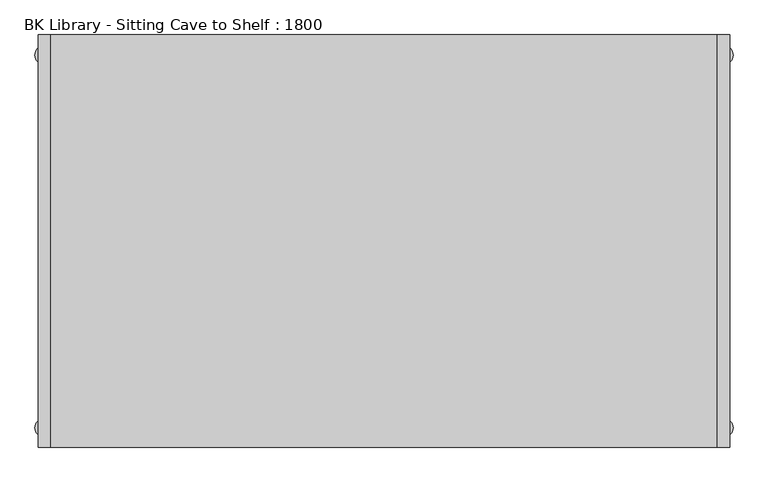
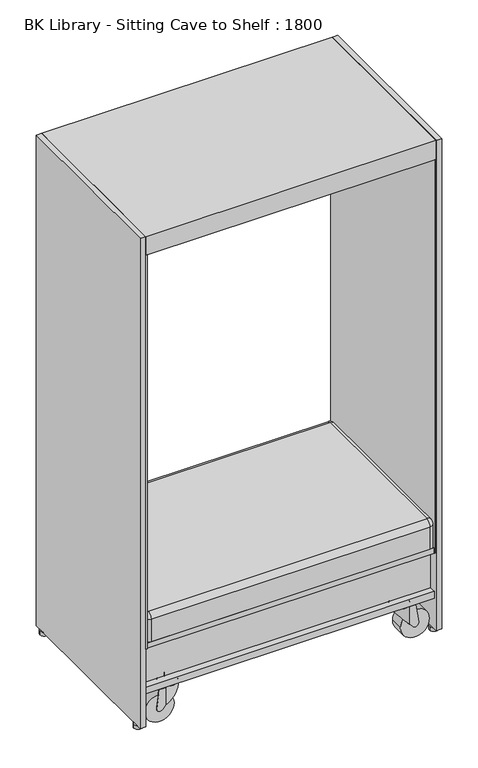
"""IFC4 building model written with IfcOpenShell, lengths in millimetres: furniture geometry, BK Library - Sitting Cave to Shelf : 1800."""

from ifc_helpers import new_model, si_unit, point, frame, frame_2d, origin, origin_with_axes, place, context, project, spatial, polyline, circle_curve, ellipse_curve, trimmed, segment, composite_curve, outline, extrude, source, transform, mapped, element, save
from ifc_brep_helpers import plane_surface, cylinder_surface, revolved_surface, advanced_brep


def bk_library_sitting_cave_to_shelf_1800_9197c93b(model_context):
    return source(origin(), model_context, "Body", "SolidModel", [
        extrude(outline(polyline([(-495.0, -310.0), (-500.0, -310.0), (-500.0, 310.0), (-495.0, 310.0), (-495.0, -310.0)])), frame((0.0, 0.0, 297.2000122), z_axis=(0.0, 0.0, 1.0), x_axis=(1.0, 0.0, 0.0)), (0.0, 0.0, 1.0), 1434.7999878),
        extrude(outline(polyline([(500.0, -310.0), (495.0, -310.0), (495.0, 310.0), (500.0, 310.0), (500.0, -310.0)])), frame((0.0, 0.0, 297.2000122), z_axis=(0.0, 0.0, 1.0), x_axis=(1.0, 0.0, 0.0)), (0.0, 0.0, 1.0), 1434.7999878),
        advanced_brep(
        [(441.5692168, 239.3557934, 116.3900038), (396.5692168, 239.3557934, 116.3900038), (396.5692168, 239.3557934, 81.8416749), (430.7173665, 239.3557934, 41.8401668), (451.0862367, 239.3557934, 51.0748876), (441.5692168, 290.2974347, 116.3900038), (451.0862367, 290.2974347, 51.0748876), (430.7173665, 290.2974347, 41.8401668), (396.5692168, 290.2974347, 81.8416749), (396.5692168, 290.2974347, 116.3900038), (430.7173665, 287.9389408, 41.8401668), (404.1507804, 287.9389408, 72.9605501), (404.1507804, 241.7142873, 72.9605501), (430.7173665, 241.7142873, 41.8401668), (451.0862367, 241.7142873, 51.0748876), (451.0862367, 287.9389408, 51.0748876), (441.9320335, 241.7142873, 113.8999998), (441.9320335, 287.9389408, 113.8999998), (404.1507804, 287.9389408, 113.8999998), (404.1507804, 241.7142873, 113.8999998)],
        [
            (0, 1),
            (1, 2),
            (2, 3),
            (3, 4, circle_curve(frame((439.5692324, 239.3557934, 49.3967529), z_axis=(0.0, -1.0, 0.0), x_axis=(1.0, 0.0, 0.0)), 11.6386221)),
            (4, 0),
            (5, 6),
            (6, 7, circle_curve(frame((439.5692324, 290.2974347, 49.3967529), z_axis=(0.0, 1.0, 0.0), x_axis=(1.0, 0.0, 0.0)), 11.6386221)),
            (7, 8),
            (8, 9),
            (9, 5),
            (0, 5),
            (9, 1),
            (8, 2),
            (7, 10),
            (10, 11),
            (11, 12),
            (12, 13),
            (13, 3),
            (13, 14, circle_curve(frame((439.5692324, 241.7142873, 49.3967529), z_axis=(0.0, -1.0, 0.0), x_axis=(1.0, 0.0, 0.0)), 11.6386221)),
            (14, 4),
            (6, 15),
            (15, 10, circle_curve(frame((439.5692324, 287.9389408, 49.3967529), z_axis=(0.0, 1.0, 0.0), x_axis=(1.0, 0.0, 0.0)), 11.6386221)),
            (14, 16),
            (16, 17),
            (17, 15),
            (18, 19),
            (19, 12),
            (11, 18),
            (19, 16),
            (18, 17),
        ],
        [
            plane_surface(frame((441.5692168, 239.3557934, 116.3900038), z_axis=(0.0, -1.0, 0.0), x_axis=(-1.0, 0.0, 0.0))),
            plane_surface(frame((441.5692168, 290.2974347, 116.3900038), z_axis=(0.0, 1.0, 0.0), x_axis=(1.0, 0.0, 0.0))),
            plane_surface(frame((441.5692168, 239.3557934, 116.3900038), z_axis=(0.0, 0.0, 1.0), x_axis=(0.0, 1.0, 0.0))),
            plane_surface(frame((396.5692168, 239.3557934, 116.3900038), z_axis=(-1.0, 0.0, 0.0), x_axis=(0.0, 1.0, 0.0))),
            plane_surface(frame((396.5692168, 239.3557934, 81.8416749), z_axis=(-0.76055961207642, 0.0, -0.649268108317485), x_axis=(0.0, 1.0, 0.0))),
            cylinder_surface(frame((439.5692324, 290.2974347, 49.3967529), z_axis=(0.0, -1.0, 0.0), x_axis=(1.0, 0.0, 0.0)), 11.6386221),
            plane_surface(frame((451.0862367, 239.3557934, 51.0748876), z_axis=(0.9895505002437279, 0.0, 0.14418671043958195), x_axis=(0.0, 1.0, 0.0))),
            plane_surface(frame((404.1507804, 287.9389408, 11.6999998), z_axis=(1.0, 0.0, 0.0), x_axis=(0.0, -1.0, 0.0))),
            plane_surface(frame((465.1635235, 241.7142873, 113.8999998), z_axis=(0.0, 1.0, 0.0), x_axis=(-1.0, 0.0, 0.0))),
            plane_surface(frame((465.1635235, 287.9389408, 113.8999998), z_axis=(0.0, 0.0, -1.0), x_axis=(-1.0, 0.0, 0.0))),
            plane_surface(frame((465.1635235, 287.9389408, 11.6999998), z_axis=(0.0, -1.0, 0.0), x_axis=(-1.0, 0.0, 0.0))),
        ],
        [
            (0, [[1, 2, 3, 4, 5]]),
            (1, [[6, 7, 8, 9, 10]]),
            (2, [[-1, 11, -10, 12]]),
            (3, [[-2, -12, -9, 13]]),
            (4, [[-3, -13, -8, 14, 15, 16, 17, 18]]),
            (5, [[-4, -18, 19, 20]]),
            (5, [[-7, 21, 22, -14]]),
            (6, [[-5, -20, 23, 24, 25, -21, -6, -11]]),
            (7, [[26, 27, -16, 28]]),
            (8, [[-27, 29, -23, -19, -17]]),
            (9, [[-26, 30, -24, -29]]),
            (10, [[-28, -15, -22, -25, -30]]),
        ],
    ),
        advanced_brep(
        [(367.1443326, 264.8730954, 121.6226045), (432.1265574, 264.8730954, 121.6226045), (432.1265574, 264.8730954, 44.4908375), (428.4545643, 279.8774531, 44.4908375), (369.8467405, 277.8463552, 113.1446696), (367.1443326, 264.8730954, 113.1446696), (369.8467405, 251.8998355, 113.1446696), (428.4545643, 249.8687376, 44.4908375), (428.4545643, 264.8730954, 44.4908375), (425.1265574, 264.8730954, 128.6226045), (374.1443326, 264.8730954, 128.6226045), (399.635445, 264.8730954, 128.6226045)],
        [
            (0, 1, circle_curve(frame((399.635445, 264.8730954, 121.6226045), z_axis=(0.0, 0.0, -1.0), x_axis=(-1.0, 0.0, 0.0)), 32.4911124)),
            (1, 2),
            (2, 3, circle_curve(frame((399.635445, 264.8730954, 44.4908375), z_axis=(0.0, 0.0, 1.0), x_axis=(-1.0, 0.0, 0.0)), 32.4911124)),
            (3, 4, ellipse_curve(frame((399.635445, 264.8730954, 78.2498623), z_axis=(0.76055961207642, 0.0, 0.649268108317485), x_axis=(0.649268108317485, 0.0, -0.76055961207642)), 50.0426742, 32.4911124)),
            (4, 5, circle_curve(frame((399.635445, 264.8730954, 113.1446696), z_axis=(0.0, 0.0, 1.0), x_axis=(-1.0, 0.0, 0.0)), 32.4911124)),
            (5, 0),
            (1, 0, circle_curve(frame((399.635445, 264.8730954, 121.6226045), z_axis=(0.0, 0.0, -1.0), x_axis=(-1.0, 0.0, 0.0)), 32.4911124)),
            (5, 6, circle_curve(frame((399.635445, 264.8730954, 113.1446696), z_axis=(0.0, 0.0, 1.0), x_axis=(-1.0, 0.0, 0.0)), 32.4911124)),
            (6, 7, ellipse_curve(frame((399.635445, 264.8730954, 78.2498623), z_axis=(0.76055961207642, 0.0, 0.649268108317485), x_axis=(0.649268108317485, 0.0, -0.76055961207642)), 50.0426742, 32.4911124)),
            (7, 2, circle_curve(frame((399.635445, 264.8730954, 44.4908375), z_axis=(0.0, 0.0, 1.0), x_axis=(-1.0, 0.0, 0.0)), 32.4911124)),
            (2, 8),
            (8, 3),
            (7, 8),
            (9, 10, circle_curve(frame((399.635445, 264.8730954, 128.6226045), z_axis=(0.0, 0.0, 1.0), x_axis=(-1.0, 0.0, 0.0)), 25.4911124)),
            (10, 11),
            (11, 9),
            (10, 9, circle_curve(frame((399.635445, 264.8730954, 128.6226045), z_axis=(0.0, 0.0, 1.0), x_axis=(-1.0, 0.0, 0.0)), 25.4911124)),
            (0, 10, circle_curve(frame((374.1443326, 264.8730954, 121.6226045), z_axis=(0.0, 1.0, 0.0), x_axis=(1.0, 0.0, 0.0)), 7.0)),
            (9, 1, circle_curve(frame((425.1265574, 264.8730954, 121.6226045), z_axis=(0.0, 1.0, 0.0), x_axis=(-1.0, 0.0, 0.0)), 7.0)),
            (6, 4),
        ],
        [
            cylinder_surface(frame((399.635445, 264.8730954, 133.8335618), z_axis=(0.0, 0.0, -1.0), x_axis=(-1.0, 0.0, 0.0)), 32.4911124),
            plane_surface(frame((399.635445, 264.8730954, 44.4908375), z_axis=(0.0, 0.0, -1.0), x_axis=(-1.0, 0.0, 0.0))),
            plane_surface(frame((399.635445, 264.8730954, 128.6226045), z_axis=(0.0, 0.0, 1.0), x_axis=(-1.0, 0.0, 0.0))),
            revolved_surface(trimmed(ellipse_curve(frame((374.1443326, 264.8730954, 121.6226045), z_axis=(0.0, -1.0, 0.0), x_axis=(1.0, 0.0, 0.0)), 7.0, 7.0), [point((374.1443326, 264.8730954, 128.6226045))], [point((367.1443326, 264.8730954, 121.6226045))], True, "CARTESIAN"), (399.635445, 264.8730954, 133.8335618), (0.0, 0.0, -1.0)),
            plane_surface(frame((430.7448827, 182.3708518, 41.807934), z_axis=(-0.76055961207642, 0.0, -0.649268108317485), x_axis=(0.0, 1.0, 0.0))),
            plane_surface(frame((369.8467405, 182.3708518, 113.1446696), z_axis=(0.0, 0.0, -1.0), x_axis=(0.0, 1.0, 0.0))),
        ],
        [
            (0, [[1, 2, 3, 4, 5, 6]]),
            (0, [[-2, 7, -6, 8, 9, 10]]),
            (1, [[-3, 11, 12]]),
            (1, [[-11, -10, 13]]),
            (2, [[14, 15, 16]]),
            (2, [[-15, 17, -16]]),
            (3, [[-1, 18, -14, 19]]),
            (3, [[-7, -19, -17, -18]]),
            (4, [[20, -4, -12, -13, -9]]),
            (5, [[-20, -8, -5]]),
        ],
    ),
        extrude(outline(composite_curve([segment(trimmed(circle_curve(frame_2d((49.3999998, -439.6510071)), 50.0), [point((49.3999998, -389.6510071))], [point((49.3999998, -489.6510071))], False, "CARTESIAN"), True, "CONTINUOUS"), segment(trimmed(circle_curve(frame_2d((49.3999998, -439.6510071)), 50.0), [point((49.3999998, -489.6510071))], [point((49.3999998, -389.6510071))], False, "CARTESIAN"), True, "CONTINUOUS")], self_intersect=False)), frame((0.0, 241.7142873, 0.0), z_axis=(0.0, 1.0, 0.0), x_axis=(0.0, 0.0, 1.0)), (0.0, 0.0, 1.0), 46.2857127),
        advanced_brep(
        [(441.5692168, -239.3557934, 116.3900038), (451.0862367, -239.3557934, 51.0748876), (430.7173665, -239.3557934, 41.8401668), (396.5692168, -239.3557934, 81.8416749), (396.5692168, -239.3557934, 116.3900038), (441.5692168, -290.2974347, 116.3900038), (396.5692168, -290.2974347, 116.3900038), (396.5692168, -290.2974347, 81.8416749), (430.7173665, -290.2974347, 41.8401668), (451.0862367, -290.2974347, 51.0748876), (430.7173665, -241.7142873, 41.8401668), (404.1507804, -241.7142873, 72.9605501), (404.1507804, -287.9389408, 72.9605501), (430.7173665, -287.9389408, 41.8401668), (451.0862367, -241.7142873, 51.0748876), (451.0862367, -287.9389408, 51.0748876), (441.9320335, -287.9389408, 113.8999998), (441.9320335, -241.7142873, 113.8999998), (404.1507804, -241.7142873, 113.8999998), (404.1507804, -287.9389408, 113.8999998)],
        [
            (0, 1),
            (1, 2, circle_curve(frame((439.5692324, -239.3557934, 49.3967529), z_axis=(0.0, 1.0, 0.0), x_axis=(1.0, 0.0, 0.0)), 11.6386221)),
            (2, 3),
            (3, 4),
            (4, 0),
            (5, 6),
            (6, 7),
            (7, 8),
            (8, 9, circle_curve(frame((439.5692324, -290.2974347, 49.3967529), z_axis=(0.0, -1.0, 0.0), x_axis=(1.0, 0.0, 0.0)), 11.6386221)),
            (9, 5),
            (4, 6),
            (5, 0),
            (3, 7),
            (2, 10),
            (10, 11),
            (11, 12),
            (12, 13),
            (13, 8),
            (1, 14),
            (14, 10, circle_curve(frame((439.5692324, -241.7142873, 49.3967529), z_axis=(0.0, 1.0, 0.0), x_axis=(1.0, 0.0, 0.0)), 11.6386221)),
            (13, 15, circle_curve(frame((439.5692324, -287.9389408, 49.3967529), z_axis=(0.0, -1.0, 0.0), x_axis=(1.0, 0.0, 0.0)), 11.6386221)),
            (15, 9),
            (15, 16),
            (16, 17),
            (17, 14),
            (18, 19),
            (19, 12),
            (11, 18),
            (17, 18),
            (16, 19),
        ],
        [
            plane_surface(frame((451.0874735, -239.3557934, 51.0663993), z_axis=(0.0, 1.0, 0.0), x_axis=(0.14418671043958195, 0.0, -0.9895505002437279))),
            plane_surface(frame((451.0874735, -290.2974347, 51.0663993), z_axis=(0.0, -1.0, 0.0), x_axis=(-0.14418671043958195, 0.0, 0.9895505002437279))),
            plane_surface(frame((396.5692168, -239.3557934, 116.3900038), z_axis=(0.0, 0.0, 1.0), x_axis=(0.0, -1.0, 0.0))),
            plane_surface(frame((396.5692168, -239.3557934, 81.8416749), z_axis=(-1.0, 0.0, 0.0), x_axis=(0.0, -1.0, 0.0))),
            plane_surface(frame((430.7173665, -239.3557934, 41.8401668), z_axis=(-0.76055961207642, 0.0, -0.649268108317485), x_axis=(0.0, -1.0, 0.0))),
            cylinder_surface(frame((439.5692324, -290.2974347, 49.3967529), z_axis=(0.0, 1.0, 0.0), x_axis=(1.0, 0.0, 0.0)), 11.6386221),
            plane_surface(frame((441.5692168, -239.3557934, 116.3900038), z_axis=(0.9895505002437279, 0.0, 0.14418671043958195), x_axis=(0.0, -1.0, 0.0))),
            plane_surface(frame((404.1507804, -241.7142873, 116.3900038), z_axis=(1.0, 0.0, 0.0), x_axis=(0.0, 0.0, -1.0))),
            plane_surface(frame((465.1635235, -241.7142873, 11.6999998), z_axis=(0.0, -1.0, 0.0), x_axis=(-1.0, 0.0, 0.0))),
            plane_surface(frame((465.1635235, -241.7142873, 113.8999998), z_axis=(0.0, 0.0, -1.0), x_axis=(-1.0, 0.0, 0.0))),
            plane_surface(frame((465.1635235, -287.9389408, 113.8999998), z_axis=(0.0, 1.0, 0.0), x_axis=(-1.0, 0.0, 0.0))),
        ],
        [
            (0, [[1, 2, 3, 4, 5]]),
            (1, [[6, 7, 8, 9, 10]]),
            (2, [[-5, 11, -6, 12]]),
            (3, [[-4, 13, -7, -11]]),
            (4, [[-3, 14, 15, 16, 17, 18, -8, -13]]),
            (5, [[-2, 19, 20, -14]]),
            (5, [[-9, -18, 21, 22]]),
            (6, [[-1, -12, -10, -22, 23, 24, 25, -19]]),
            (7, [[26, 27, -16, 28]]),
            (8, [[-28, -15, -20, -25, 29]]),
            (9, [[-26, -29, -24, 30]]),
            (10, [[-27, -30, -23, -21, -17]]),
        ],
    ),
        advanced_brep(
        [(432.1265574, -264.8730954, 121.6226045), (367.1443326, -264.8730954, 121.6226045), (367.1443326, -264.8730954, 113.1446696), (369.8467405, -277.8463552, 113.1446696), (428.4545643, -279.8774531, 44.4908375), (432.1265574, -264.8730954, 44.4908375), (428.4545643, -249.8687376, 44.4908375), (369.8467405, -251.8998355, 113.1446696), (428.4545643, -264.8730954, 44.4908375), (399.635445, -264.8730954, 128.6226045), (374.1443326, -264.8730954, 128.6226045), (425.1265574, -264.8730954, 128.6226045)],
        [
            (0, 1, circle_curve(frame((399.635445, -264.8730954, 121.6226045), z_axis=(0.0, 0.0, -1.0), x_axis=(-1.0, 0.0, 0.0)), 32.4911124)),
            (1, 2),
            (2, 3, circle_curve(frame((399.635445, -264.8730954, 113.1446696), z_axis=(0.0, 0.0, 1.0), x_axis=(-1.0, 0.0, 0.0)), 32.4911124)),
            (3, 4, ellipse_curve(frame((399.635445, -264.8730954, 78.2498623), z_axis=(0.76055961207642, 0.0, 0.649268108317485), x_axis=(-0.649268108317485, 0.0, 0.76055961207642)), 50.0426742, 32.4911124)),
            (4, 5, circle_curve(frame((399.635445, -264.8730954, 44.4908375), z_axis=(0.0, 0.0, 1.0), x_axis=(-1.0, 0.0, 0.0)), 32.4911124)),
            (5, 0),
            (5, 6, circle_curve(frame((399.635445, -264.8730954, 44.4908375), z_axis=(0.0, 0.0, 1.0), x_axis=(-1.0, 0.0, 0.0)), 32.4911124)),
            (6, 7, ellipse_curve(frame((399.635445, -264.8730954, 78.2498623), z_axis=(0.76055961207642, 0.0, 0.649268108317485), x_axis=(-0.649268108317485, 0.0, 0.76055961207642)), 50.0426742, 32.4911124)),
            (7, 2, circle_curve(frame((399.635445, -264.8730954, 113.1446696), z_axis=(0.0, 0.0, 1.0), x_axis=(-1.0, 0.0, 0.0)), 32.4911124)),
            (1, 0, circle_curve(frame((399.635445, -264.8730954, 121.6226045), z_axis=(0.0, 0.0, -1.0), x_axis=(-1.0, 0.0, 0.0)), 32.4911124)),
            (4, 8),
            (8, 5),
            (8, 6),
            (9, 10),
            (10, 11, circle_curve(frame((399.635445, -264.8730954, 128.6226045), z_axis=(0.0, 0.0, 1.0), x_axis=(-1.0, 0.0, 0.0)), 25.4911124)),
            (11, 9),
            (11, 10, circle_curve(frame((399.635445, -264.8730954, 128.6226045), z_axis=(0.0, 0.0, 1.0), x_axis=(-1.0, 0.0, 0.0)), 25.4911124)),
            (0, 11, circle_curve(frame((425.1265574, -264.8730954, 121.6226045), z_axis=(0.0, -1.0, 0.0), x_axis=(-1.0, 0.0, 0.0)), 7.0)),
            (10, 1, circle_curve(frame((374.1443326, -264.8730954, 121.6226045), z_axis=(0.0, -1.0, 0.0), x_axis=(1.0, 0.0, 0.0)), 7.0)),
            (3, 7),
        ],
        [
            cylinder_surface(frame((399.635445, -264.8730954, 133.8335618), z_axis=(0.0, 0.0, 1.0), x_axis=(-1.0, 0.0, 0.0)), 32.4911124),
            plane_surface(frame((399.635445, -264.8730954, 44.4908375), z_axis=(0.0, 0.0, -1.0), x_axis=(-1.0, 0.0, 0.0))),
            plane_surface(frame((399.635445, -264.8730954, 128.6226045), z_axis=(0.0, 0.0, 1.0), x_axis=(-1.0, 0.0, 0.0))),
            revolved_surface(trimmed(ellipse_curve(frame((374.1443326, -264.8730954, 121.6226045), z_axis=(0.0, 1.0, 0.0), x_axis=(1.0, 0.0, 0.0)), 7.0, 7.0), [point((367.1443326, -264.8730954, 121.6226045))], [point((374.1443326, -264.8730954, 128.6226045))], True, "CARTESIAN"), (399.635445, -264.8730954, 133.8335618), (0.0, 0.0, 1.0)),
            plane_surface(frame((369.8467405, -182.3708518, 113.1446696), z_axis=(-0.76055961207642, 0.0, -0.649268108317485), x_axis=(0.0, -1.0, 0.0))),
            plane_surface(frame((358.5196085, -182.3708518, 113.1446696), z_axis=(0.0, 0.0, -1.0), x_axis=(0.0, -1.0, 0.0))),
        ],
        [
            (0, [[1, 2, 3, 4, 5, 6]]),
            (0, [[-6, 7, 8, 9, -2, 10]]),
            (1, [[-5, 11, 12]]),
            (1, [[-7, -12, 13]]),
            (2, [[14, 15, 16]]),
            (2, [[-14, -16, 17]]),
            (3, [[-1, 18, -15, 19]]),
            (3, [[-10, -19, -17, -18]]),
            (4, [[20, -8, -13, -11, -4]]),
            (5, [[-20, -3, -9]]),
        ],
    ),
        extrude(outline(composite_curve([segment(trimmed(circle_curve(frame_2d((399.635445, 264.8421776)), 10.0), [point((389.635445, 264.8421776))], [point((409.635445, 264.8421776))], False, "CARTESIAN"), True, "CONTINUOUS"), segment(trimmed(circle_curve(frame_2d((399.635445, 264.8421776)), 10.0), [point((409.635445, 264.8421776))], [point((389.635445, 264.8421776))], False, "CARTESIAN"), True, "CONTINUOUS")], self_intersect=False)), frame((0.0, 0.0, 126.1999998), z_axis=(0.0, 0.0, 1.0), x_axis=(1.0, 0.0, 0.0)), (0.0, 0.0, 1.0), 24.8998986),
        extrude(outline(composite_curve([segment(trimmed(circle_curve(frame_2d((49.3999998, 439.6510071)), 50.0), [point((49.3999998, 389.6510071))], [point((49.3999998, 489.6510071))], False, "CARTESIAN"), True, "CONTINUOUS"), segment(trimmed(circle_curve(frame_2d((49.3999998, 439.6510071)), 50.0), [point((49.3999998, 489.6510071))], [point((49.3999998, 389.6510071))], False, "CARTESIAN"), True, "CONTINUOUS")], self_intersect=False)), frame((0.0, 241.7142873, 0.0), z_axis=(0.0, 1.0, 0.0), x_axis=(0.0, 0.0, 1.0)), (0.0, 0.0, 1.0), 46.2857127),
        extrude(outline(composite_curve([segment(trimmed(circle_curve(frame_2d((399.635445, -264.8421776)), 10.0), [point((389.635445, -264.8421776))], [point((409.635445, -264.8421776))], False, "CARTESIAN"), True, "CONTINUOUS"), segment(trimmed(circle_curve(frame_2d((399.635445, -264.8421776)), 10.0), [point((409.635445, -264.8421776))], [point((389.635445, -264.8421776))], False, "CARTESIAN"), True, "CONTINUOUS")], self_intersect=False)), frame((0.0, 0.0, 126.1999998), z_axis=(0.0, 0.0, 1.0), x_axis=(1.0, 0.0, 0.0)), (0.0, 0.0, 1.0), 24.8998986),
        extrude(outline(composite_curve([segment(trimmed(circle_curve(frame_2d((49.3999998, 439.6510071)), 50.0), [point((49.3999998, 389.6510071))], [point((49.3999998, 489.6510071))], False, "CARTESIAN"), True, "CONTINUOUS"), segment(trimmed(circle_curve(frame_2d((49.3999998, 439.6510071)), 50.0), [point((49.3999998, 489.6510071))], [point((49.3999998, 389.6510071))], False, "CARTESIAN"), True, "CONTINUOUS")], self_intersect=False)), frame((0.0, -288.0, 0.0), z_axis=(0.0, 1.0, 0.0), x_axis=(0.0, 0.0, 1.0)), (0.0, 0.0, 1.0), 46.2857127),
        advanced_brep(
        [(-441.5692168, 239.3557934, 116.3900038), (-451.0862367, 239.3557934, 51.0748876), (-430.7173665, 239.3557934, 41.8401668), (-396.5692168, 239.3557934, 81.8416749), (-396.5692168, 239.3557934, 116.3900038), (-441.5692168, 290.2974347, 116.3900038), (-396.5692168, 290.2974347, 116.3900038), (-396.5692168, 290.2974347, 81.8416749), (-430.7173665, 290.2974347, 41.8401668), (-451.0862367, 290.2974347, 51.0748876), (-430.7173665, 241.7142873, 41.8401668), (-404.1507804, 241.7142873, 72.9605501), (-404.1507804, 287.9389408, 72.9605501), (-430.7173665, 287.9389408, 41.8401668), (-451.0862367, 241.7142873, 51.0748876), (-451.0862367, 287.9389408, 51.0748876), (-441.9320335, 287.9389408, 113.8999998), (-441.9320335, 241.7142873, 113.8999998), (-404.1507804, 241.7142873, 113.8999998), (-404.1507804, 287.9389408, 113.8999998)],
        [
            (0, 1),
            (1, 2, circle_curve(frame((-439.5692324, 239.3557934, 49.3967529), z_axis=(0.0, -1.0, 0.0), x_axis=(-1.0, 0.0, 0.0)), 11.6386221)),
            (2, 3),
            (3, 4),
            (4, 0),
            (5, 6),
            (6, 7),
            (7, 8),
            (8, 9, circle_curve(frame((-439.5692324, 290.2974347, 49.3967529), z_axis=(0.0, 1.0, 0.0), x_axis=(-1.0, 0.0, 0.0)), 11.6386221)),
            (9, 5),
            (4, 6),
            (5, 0),
            (3, 7),
            (2, 10),
            (10, 11),
            (11, 12),
            (12, 13),
            (13, 8),
            (1, 14),
            (14, 10, circle_curve(frame((-439.5692324, 241.7142873, 49.3967529), z_axis=(0.0, -1.0, 0.0), x_axis=(-1.0, 0.0, 0.0)), 11.6386221)),
            (13, 15, circle_curve(frame((-439.5692324, 287.9389408, 49.3967529), z_axis=(0.0, 1.0, 0.0), x_axis=(-1.0, 0.0, 0.0)), 11.6386221)),
            (15, 9),
            (15, 16),
            (16, 17),
            (17, 14),
            (18, 19),
            (19, 12),
            (11, 18),
            (17, 18),
            (16, 19),
        ],
        [
            plane_surface(frame((-451.0874735, 239.3557934, 51.0663993), z_axis=(0.0, -1.0, 0.0), x_axis=(-0.14418671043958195, 0.0, -0.9895505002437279))),
            plane_surface(frame((-451.0874735, 290.2974347, 51.0663993), z_axis=(0.0, 1.0, 0.0), x_axis=(0.14418671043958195, 0.0, 0.9895505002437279))),
            plane_surface(frame((-396.5692168, 239.3557934, 116.3900038), z_axis=(0.0, 0.0, 1.0), x_axis=(0.0, 1.0, 0.0))),
            plane_surface(frame((-396.5692168, 239.3557934, 81.8416749), z_axis=(1.0, 0.0, 0.0), x_axis=(0.0, 1.0, 0.0))),
            plane_surface(frame((-430.7173665, 239.3557934, 41.8401668), z_axis=(0.76055961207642, 0.0, -0.649268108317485), x_axis=(0.0, 1.0, 0.0))),
            cylinder_surface(frame((-439.5692324, 290.2974347, 49.3967529), z_axis=(0.0, -1.0, 0.0), x_axis=(-1.0, 0.0, 0.0)), 11.6386221),
            plane_surface(frame((-441.5692168, 239.3557934, 116.3900038), z_axis=(-0.9895505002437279, 0.0, 0.14418671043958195), x_axis=(0.0, 1.0, 0.0))),
            plane_surface(frame((-404.1507804, 241.7142873, 116.3900038), z_axis=(-1.0, 0.0, 0.0), x_axis=(0.0, 0.0, -1.0))),
            plane_surface(frame((-465.1635235, 241.7142873, 11.6999998), z_axis=(0.0, 1.0, 0.0), x_axis=(1.0, 0.0, 0.0))),
            plane_surface(frame((-465.1635235, 241.7142873, 113.8999998), z_axis=(0.0, 0.0, -1.0), x_axis=(1.0, 0.0, 0.0))),
            plane_surface(frame((-465.1635235, 287.9389408, 113.8999998), z_axis=(0.0, -1.0, 0.0), x_axis=(1.0, 0.0, 0.0))),
        ],
        [
            (0, [[1, 2, 3, 4, 5]]),
            (1, [[6, 7, 8, 9, 10]]),
            (2, [[-5, 11, -6, 12]]),
            (3, [[-4, 13, -7, -11]]),
            (4, [[-3, 14, 15, 16, 17, 18, -8, -13]]),
            (5, [[-2, 19, 20, -14]]),
            (5, [[-9, -18, 21, 22]]),
            (6, [[-1, -12, -10, -22, 23, 24, 25, -19]]),
            (7, [[26, 27, -16, 28]]),
            (8, [[-28, -15, -20, -25, 29]]),
            (9, [[-26, -29, -24, 30]]),
            (10, [[-27, -30, -23, -21, -17]]),
        ],
    ),
        advanced_brep(
        [(-432.1265574, 264.8730954, 121.6226045), (-367.1443326, 264.8730954, 121.6226045), (-367.1443326, 264.8730954, 113.1446696), (-369.8467405, 277.8463552, 113.1446696), (-428.4545643, 279.8774531, 44.4908375), (-432.1265574, 264.8730954, 44.4908375), (-428.4545643, 249.8687376, 44.4908375), (-369.8467405, 251.8998355, 113.1446696), (-428.4545643, 264.8730954, 44.4908375), (-399.635445, 264.8730954, 128.6226045), (-374.1443326, 264.8730954, 128.6226045), (-425.1265574, 264.8730954, 128.6226045)],
        [
            (0, 1, circle_curve(frame((-399.635445, 264.8730954, 121.6226045), z_axis=(0.0, 0.0, -1.0), x_axis=(1.0, 0.0, 0.0)), 32.4911124)),
            (1, 2),
            (2, 3, circle_curve(frame((-399.635445, 264.8730954, 113.1446696), z_axis=(0.0, 0.0, 1.0), x_axis=(1.0, 0.0, 0.0)), 32.4911124)),
            (3, 4, ellipse_curve(frame((-399.635445, 264.8730954, 78.2498623), z_axis=(-0.76055961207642, 0.0, 0.649268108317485), x_axis=(0.649268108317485, 0.0, 0.76055961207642)), 50.0426742, 32.4911124)),
            (4, 5, circle_curve(frame((-399.635445, 264.8730954, 44.4908375), z_axis=(0.0, 0.0, 1.0), x_axis=(1.0, 0.0, 0.0)), 32.4911124)),
            (5, 0),
            (5, 6, circle_curve(frame((-399.635445, 264.8730954, 44.4908375), z_axis=(0.0, 0.0, 1.0), x_axis=(1.0, 0.0, 0.0)), 32.4911124)),
            (6, 7, ellipse_curve(frame((-399.635445, 264.8730954, 78.2498623), z_axis=(-0.76055961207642, 0.0, 0.649268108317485), x_axis=(0.649268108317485, 0.0, 0.76055961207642)), 50.0426742, 32.4911124)),
            (7, 2, circle_curve(frame((-399.635445, 264.8730954, 113.1446696), z_axis=(0.0, 0.0, 1.0), x_axis=(1.0, 0.0, 0.0)), 32.4911124)),
            (1, 0, circle_curve(frame((-399.635445, 264.8730954, 121.6226045), z_axis=(0.0, 0.0, -1.0), x_axis=(1.0, 0.0, 0.0)), 32.4911124)),
            (4, 8),
            (8, 5),
            (8, 6),
            (9, 10),
            (10, 11, circle_curve(frame((-399.635445, 264.8730954, 128.6226045), z_axis=(0.0, 0.0, 1.0), x_axis=(1.0, 0.0, 0.0)), 25.4911124)),
            (11, 9),
            (11, 10, circle_curve(frame((-399.635445, 264.8730954, 128.6226045), z_axis=(0.0, 0.0, 1.0), x_axis=(1.0, 0.0, 0.0)), 25.4911124)),
            (0, 11, circle_curve(frame((-425.1265574, 264.8730954, 121.6226045), z_axis=(0.0, 1.0, 0.0), x_axis=(1.0, 0.0, 0.0)), 7.0)),
            (10, 1, circle_curve(frame((-374.1443326, 264.8730954, 121.6226045), z_axis=(0.0, 1.0, 0.0), x_axis=(-1.0, 0.0, 0.0)), 7.0)),
            (3, 7),
        ],
        [
            cylinder_surface(frame((-399.635445, 264.8730954, 133.8335618), z_axis=(0.0, 0.0, 1.0), x_axis=(1.0, 0.0, 0.0)), 32.4911124),
            plane_surface(frame((-399.635445, 264.8730954, 44.4908375), z_axis=(0.0, 0.0, -1.0), x_axis=(1.0, 0.0, 0.0))),
            plane_surface(frame((-399.635445, 264.8730954, 128.6226045), z_axis=(0.0, 0.0, 1.0), x_axis=(1.0, 0.0, 0.0))),
            revolved_surface(trimmed(ellipse_curve(frame((-374.1443326, 264.8730954, 121.6226045), z_axis=(0.0, -1.0, 0.0), x_axis=(-1.0, 0.0, 0.0)), 7.0, 7.0), [point((-367.1443326, 264.8730954, 121.6226045))], [point((-374.1443326, 264.8730954, 128.6226045))], True, "CARTESIAN"), (-399.635445, 264.8730954, 133.8335618), (0.0, 0.0, 1.0)),
            plane_surface(frame((-369.8467405, 182.3708518, 113.1446696), z_axis=(0.76055961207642, 0.0, -0.649268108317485), x_axis=(0.0, 1.0, 0.0))),
            plane_surface(frame((-358.5196085, 182.3708518, 113.1446696), z_axis=(0.0, 0.0, -1.0), x_axis=(0.0, 1.0, 0.0))),
        ],
        [
            (0, [[1, 2, 3, 4, 5, 6]]),
            (0, [[-6, 7, 8, 9, -2, 10]]),
            (1, [[-5, 11, 12]]),
            (1, [[-7, -12, 13]]),
            (2, [[14, 15, 16]]),
            (2, [[-14, -16, 17]]),
            (3, [[-1, 18, -15, 19]]),
            (3, [[-10, -19, -17, -18]]),
            (4, [[20, -8, -13, -11, -4]]),
            (5, [[-20, -3, -9]]),
        ],
    ),
        extrude(outline(composite_curve([segment(trimmed(circle_curve(frame_2d((49.3999998, -439.6510071)), 50.0), [point((49.3999998, -389.6510071))], [point((49.3999998, -489.6510071))], False, "CARTESIAN"), True, "CONTINUOUS"), segment(trimmed(circle_curve(frame_2d((49.3999998, -439.6510071)), 50.0), [point((49.3999998, -489.6510071))], [point((49.3999998, -389.6510071))], False, "CARTESIAN"), True, "CONTINUOUS")], self_intersect=False)), frame((0.0, -288.0, 0.0), z_axis=(0.0, 1.0, 0.0), x_axis=(0.0, 0.0, 1.0)), (0.0, 0.0, 1.0), 46.2857127),
        extrude(outline(composite_curve([segment(trimmed(circle_curve(frame_2d((-399.635445, 264.8421776)), 10.0), [point((-389.635445, 264.8421776))], [point((-409.635445, 264.8421776))], False, "CARTESIAN"), True, "CONTINUOUS"), segment(trimmed(circle_curve(frame_2d((-399.635445, 264.8421776)), 10.0), [point((-409.635445, 264.8421776))], [point((-389.635445, 264.8421776))], False, "CARTESIAN"), True, "CONTINUOUS")], self_intersect=False)), frame((0.0, 0.0, 126.1999998), z_axis=(0.0, 0.0, 1.0), x_axis=(1.0, 0.0, 0.0)), (0.0, 0.0, 1.0), 24.8998986),
        advanced_brep(
        [(-441.5692168, -239.3557934, 116.3900038), (-396.5692168, -239.3557934, 116.3900038), (-396.5692168, -239.3557934, 81.8416749), (-430.7173665, -239.3557934, 41.8401668), (-451.0862367, -239.3557934, 51.0748876), (-441.5692168, -290.2974347, 116.3900038), (-451.0862367, -290.2974347, 51.0748876), (-430.7173665, -290.2974347, 41.8401668), (-396.5692168, -290.2974347, 81.8416749), (-396.5692168, -290.2974347, 116.3900038), (-430.7173665, -287.9389408, 41.8401668), (-404.1507804, -287.9389408, 72.9605501), (-404.1507804, -241.7142873, 72.9605501), (-430.7173665, -241.7142873, 41.8401668), (-451.0862367, -241.7142873, 51.0748876), (-451.0862367, -287.9389408, 51.0748876), (-441.9320335, -241.7142873, 113.8999998), (-441.9320335, -287.9389408, 113.8999998), (-404.1507804, -287.9389408, 113.8999998), (-404.1507804, -241.7142873, 113.8999998)],
        [
            (0, 1),
            (1, 2),
            (2, 3),
            (3, 4, circle_curve(frame((-439.5692324, -239.3557934, 49.3967529), z_axis=(0.0, 1.0, 0.0), x_axis=(-1.0, 0.0, 0.0)), 11.6386221)),
            (4, 0),
            (5, 6),
            (6, 7, circle_curve(frame((-439.5692324, -290.2974347, 49.3967529), z_axis=(0.0, -1.0, 0.0), x_axis=(-1.0, 0.0, 0.0)), 11.6386221)),
            (7, 8),
            (8, 9),
            (9, 5),
            (0, 5),
            (9, 1),
            (8, 2),
            (7, 10),
            (10, 11),
            (11, 12),
            (12, 13),
            (13, 3),
            (13, 14, circle_curve(frame((-439.5692324, -241.7142873, 49.3967529), z_axis=(0.0, 1.0, 0.0), x_axis=(-1.0, 0.0, 0.0)), 11.6386221)),
            (14, 4),
            (6, 15),
            (15, 10, circle_curve(frame((-439.5692324, -287.9389408, 49.3967529), z_axis=(0.0, -1.0, 0.0), x_axis=(-1.0, 0.0, 0.0)), 11.6386221)),
            (14, 16),
            (16, 17),
            (17, 15),
            (18, 19),
            (19, 12),
            (11, 18),
            (19, 16),
            (18, 17),
        ],
        [
            plane_surface(frame((-441.5692168, -239.3557934, 116.3900038), z_axis=(0.0, 1.0, 0.0), x_axis=(1.0, 0.0, 0.0))),
            plane_surface(frame((-441.5692168, -290.2974347, 116.3900038), z_axis=(0.0, -1.0, 0.0), x_axis=(-1.0, 0.0, 0.0))),
            plane_surface(frame((-441.5692168, -239.3557934, 116.3900038), z_axis=(0.0, 0.0, 1.0), x_axis=(0.0, -1.0, 0.0))),
            plane_surface(frame((-396.5692168, -239.3557934, 116.3900038), z_axis=(1.0, 0.0, 0.0), x_axis=(0.0, -1.0, 0.0))),
            plane_surface(frame((-396.5692168, -239.3557934, 81.8416749), z_axis=(0.76055961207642, 0.0, -0.649268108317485), x_axis=(0.0, -1.0, 0.0))),
            cylinder_surface(frame((-439.5692324, -290.2974347, 49.3967529), z_axis=(0.0, 1.0, 0.0), x_axis=(-1.0, 0.0, 0.0)), 11.6386221),
            plane_surface(frame((-451.0862367, -239.3557934, 51.0748876), z_axis=(-0.9895505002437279, 0.0, 0.14418671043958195), x_axis=(0.0, -1.0, 0.0))),
            plane_surface(frame((-404.1507804, -287.9389408, 11.6999998), z_axis=(-1.0, 0.0, 0.0), x_axis=(0.0, 1.0, 0.0))),
            plane_surface(frame((-465.1635235, -241.7142873, 113.8999998), z_axis=(0.0, -1.0, 0.0), x_axis=(1.0, 0.0, 0.0))),
            plane_surface(frame((-465.1635235, -287.9389408, 113.8999998), z_axis=(0.0, 0.0, -1.0), x_axis=(1.0, 0.0, 0.0))),
            plane_surface(frame((-465.1635235, -287.9389408, 11.6999998), z_axis=(0.0, 1.0, 0.0), x_axis=(1.0, 0.0, 0.0))),
        ],
        [
            (0, [[1, 2, 3, 4, 5]]),
            (1, [[6, 7, 8, 9, 10]]),
            (2, [[-1, 11, -10, 12]]),
            (3, [[-2, -12, -9, 13]]),
            (4, [[-3, -13, -8, 14, 15, 16, 17, 18]]),
            (5, [[-4, -18, 19, 20]]),
            (5, [[-7, 21, 22, -14]]),
            (6, [[-5, -20, 23, 24, 25, -21, -6, -11]]),
            (7, [[26, 27, -16, 28]]),
            (8, [[-27, 29, -23, -19, -17]]),
            (9, [[-26, 30, -24, -29]]),
            (10, [[-28, -15, -22, -25, -30]]),
        ],
    ),
        advanced_brep(
        [(-367.1443326, -264.8730954, 121.6226045), (-432.1265574, -264.8730954, 121.6226045), (-432.1265574, -264.8730954, 44.4908375), (-428.4545643, -279.8774531, 44.4908375), (-369.8467405, -277.8463552, 113.1446696), (-367.1443326, -264.8730954, 113.1446696), (-369.8467405, -251.8998355, 113.1446696), (-428.4545643, -249.8687376, 44.4908375), (-428.4545643, -264.8730954, 44.4908375), (-425.1265574, -264.8730954, 128.6226045), (-374.1443326, -264.8730954, 128.6226045), (-399.635445, -264.8730954, 128.6226045)],
        [
            (0, 1, circle_curve(frame((-399.635445, -264.8730954, 121.6226045), z_axis=(0.0, 0.0, -1.0), x_axis=(1.0, 0.0, 0.0)), 32.4911124)),
            (1, 2),
            (2, 3, circle_curve(frame((-399.635445, -264.8730954, 44.4908375), z_axis=(0.0, 0.0, 1.0), x_axis=(1.0, 0.0, 0.0)), 32.4911124)),
            (3, 4, ellipse_curve(frame((-399.635445, -264.8730954, 78.2498623), z_axis=(-0.76055961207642, 0.0, 0.649268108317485), x_axis=(-0.649268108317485, 0.0, -0.76055961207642)), 50.0426742, 32.4911124)),
            (4, 5, circle_curve(frame((-399.635445, -264.8730954, 113.1446696), z_axis=(0.0, 0.0, 1.0), x_axis=(1.0, 0.0, 0.0)), 32.4911124)),
            (5, 0),
            (1, 0, circle_curve(frame((-399.635445, -264.8730954, 121.6226045), z_axis=(0.0, 0.0, -1.0), x_axis=(1.0, 0.0, 0.0)), 32.4911124)),
            (5, 6, circle_curve(frame((-399.635445, -264.8730954, 113.1446696), z_axis=(0.0, 0.0, 1.0), x_axis=(1.0, 0.0, 0.0)), 32.4911124)),
            (6, 7, ellipse_curve(frame((-399.635445, -264.8730954, 78.2498623), z_axis=(-0.76055961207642, 0.0, 0.649268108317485), x_axis=(-0.649268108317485, 0.0, -0.76055961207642)), 50.0426742, 32.4911124)),
            (7, 2, circle_curve(frame((-399.635445, -264.8730954, 44.4908375), z_axis=(0.0, 0.0, 1.0), x_axis=(1.0, 0.0, 0.0)), 32.4911124)),
            (2, 8),
            (8, 3),
            (7, 8),
            (9, 10, circle_curve(frame((-399.635445, -264.8730954, 128.6226045), z_axis=(0.0, 0.0, 1.0), x_axis=(1.0, 0.0, 0.0)), 25.4911124)),
            (10, 11),
            (11, 9),
            (10, 9, circle_curve(frame((-399.635445, -264.8730954, 128.6226045), z_axis=(0.0, 0.0, 1.0), x_axis=(1.0, 0.0, 0.0)), 25.4911124)),
            (0, 10, circle_curve(frame((-374.1443326, -264.8730954, 121.6226045), z_axis=(0.0, -1.0, 0.0), x_axis=(-1.0, 0.0, 0.0)), 7.0)),
            (9, 1, circle_curve(frame((-425.1265574, -264.8730954, 121.6226045), z_axis=(0.0, -1.0, 0.0), x_axis=(1.0, 0.0, 0.0)), 7.0)),
            (6, 4),
        ],
        [
            cylinder_surface(frame((-399.635445, -264.8730954, 133.8335618), z_axis=(0.0, 0.0, -1.0), x_axis=(1.0, 0.0, 0.0)), 32.4911124),
            plane_surface(frame((-399.635445, -264.8730954, 44.4908375), z_axis=(0.0, 0.0, -1.0), x_axis=(1.0, 0.0, 0.0))),
            plane_surface(frame((-399.635445, -264.8730954, 128.6226045), z_axis=(0.0, 0.0, 1.0), x_axis=(1.0, 0.0, 0.0))),
            revolved_surface(trimmed(ellipse_curve(frame((-374.1443326, -264.8730954, 121.6226045), z_axis=(0.0, 1.0, 0.0), x_axis=(-1.0, 0.0, 0.0)), 7.0, 7.0), [point((-374.1443326, -264.8730954, 128.6226045))], [point((-367.1443326, -264.8730954, 121.6226045))], True, "CARTESIAN"), (-399.635445, -264.8730954, 133.8335618), (0.0, 0.0, -1.0)),
            plane_surface(frame((-430.7448827, -182.3708518, 41.807934), z_axis=(0.76055961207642, 0.0, -0.649268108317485), x_axis=(0.0, -1.0, 0.0))),
            plane_surface(frame((-369.8467405, -182.3708518, 113.1446696), z_axis=(0.0, 0.0, -1.0), x_axis=(0.0, -1.0, 0.0))),
        ],
        [
            (0, [[1, 2, 3, 4, 5, 6]]),
            (0, [[-2, 7, -6, 8, 9, 10]]),
            (1, [[-3, 11, 12]]),
            (1, [[-11, -10, 13]]),
            (2, [[14, 15, 16]]),
            (2, [[-15, 17, -16]]),
            (3, [[-1, 18, -14, 19]]),
            (3, [[-7, -19, -17, -18]]),
            (4, [[20, -4, -12, -13, -9]]),
            (5, [[-20, -8, -5]]),
        ],
    ),
        extrude(outline(composite_curve([segment(trimmed(circle_curve(frame_2d((-399.635445, -264.8421776)), 10.0), [point((-389.635445, -264.8421776))], [point((-409.635445, -264.8421776))], False, "CARTESIAN"), True, "CONTINUOUS"), segment(trimmed(circle_curve(frame_2d((-399.635445, -264.8421776)), 10.0), [point((-409.635445, -264.8421776))], [point((-389.635445, -264.8421776))], False, "CARTESIAN"), True, "CONTINUOUS")], self_intersect=False)), frame((0.0, 0.0, 126.1999998), z_axis=(0.0, 0.0, 1.0), x_axis=(1.0, 0.0, 0.0)), (0.0, 0.0, 1.0), 24.8998986),
        extrude(outline(composite_curve([segment(trimmed(circle_curve(frame_2d((-509.5, -280.0)), 14.4972653), [point((-523.9972653, -280.0))], [point((-495.0027347, -280.0))], False, "CARTESIAN"), True, "CONTINUOUS"), segment(trimmed(circle_curve(frame_2d((-509.5, -280.0)), 14.4972653), [point((-495.0027347, -280.0))], [point((-523.9972653, -280.0))], False, "CARTESIAN"), True, "CONTINUOUS")], self_intersect=False)), origin_with_axes(), (0.0, 0.0, 1.0), 13.7000122),
        extrude(outline(composite_curve([segment(trimmed(circle_curve(frame_2d((509.5, -280.0)), 14.4972653), [point((495.0027347, -280.0))], [point((523.9972653, -280.0))], False, "CARTESIAN"), True, "CONTINUOUS"), segment(trimmed(circle_curve(frame_2d((509.5, -280.0)), 14.4972653), [point((523.9972653, -280.0))], [point((495.0027347, -280.0))], False, "CARTESIAN"), True, "CONTINUOUS")], self_intersect=False)), origin_with_axes(), (0.0, 0.0, 1.0), 13.7000122),
        extrude(outline(composite_curve([segment(trimmed(circle_curve(frame_2d((-509.5, 280.0)), 14.4972653), [point((-523.9972653, 280.0))], [point((-495.0027347, 280.0))], False, "CARTESIAN"), True, "CONTINUOUS"), segment(trimmed(circle_curve(frame_2d((-509.5, 280.0)), 14.4972653), [point((-495.0027347, 280.0))], [point((-523.9972653, 280.0))], False, "CARTESIAN"), True, "CONTINUOUS")], self_intersect=False)), origin_with_axes(), (0.0, 0.0, 1.0), 13.7000122),
        extrude(outline(composite_curve([segment(trimmed(circle_curve(frame_2d((509.5, 280.0)), 14.4972653), [point((495.0027347, 280.0))], [point((523.9972653, 280.0))], False, "CARTESIAN"), True, "CONTINUOUS"), segment(trimmed(circle_curve(frame_2d((509.5, 280.0)), 14.4972653), [point((523.9972653, 280.0))], [point((495.0027347, 280.0))], False, "CARTESIAN"), True, "CONTINUOUS")], self_intersect=False)), origin_with_axes(), (0.0, 0.0, 1.0), 13.7000122),
        extrude(outline(polyline([(-500.0, 300.0), (500.0, 300.0), (500.0, -300.0), (-500.0, -300.0), (-500.0, 300.0)]), holes=[polyline([(475.0, 275.0), (-475.0, 275.0), (-475.0, -275.0), (475.0, -275.0), (475.0, 275.0)])]), frame((0.0, 0.0, 126.2000122), z_axis=(0.0, 0.0, 1.0), x_axis=(1.0, 0.0, 0.0)), (0.0, 0.0, 1.0), 25.0),
        advanced_brep(
        [(-481.0, -288.0, 416.2000122), (-480.0, -289.0, 416.2000122), (480.0, -289.0, 416.2000122), (481.0, -288.0, 416.2000122), (481.0, 288.0, 416.2000122), (480.0, 289.0, 416.2000122), (-480.0, 289.0, 416.2000122), (-481.0, 288.0, 416.2000122), (-500.0, 288.0, 316.2000122), (-480.0, 308.0, 316.2000122), (480.0, 308.0, 316.2000122), (500.0, 288.0, 316.2000122), (500.0, -288.0, 316.2000122), (480.0, -308.0, 316.2000122), (-480.0, -308.0, 316.2000122), (-500.0, -288.0, 316.2000122), (-500.0, -288.0, 397.2000122), (-500.0, 288.0, 397.2000122), (-480.0, -308.0, 397.2000122), (480.0, -308.0, 397.2000122), (500.0, -288.0, 397.2000122), (500.0, 288.0, 397.2000122), (480.0, 308.0, 397.2000122), (-480.0, 308.0, 397.2000122)],
        [
            (0, 1, circle_curve(frame((-480.0, -288.0, 416.2000122), z_axis=(0.0, 0.0, 1.0), x_axis=(-1.0, 0.0, 0.0)), 1.0)),
            (1, 2),
            (2, 3, circle_curve(frame((480.0, -288.0, 416.2000122), z_axis=(0.0, 0.0, 1.0), x_axis=(0.0, -1.0, 0.0)), 1.0)),
            (3, 4),
            (4, 5, circle_curve(frame((480.0, 288.0, 416.2000122), z_axis=(0.0, 0.0, 1.0), x_axis=(1.0, 0.0, 0.0)), 1.0)),
            (5, 6),
            (6, 7, circle_curve(frame((-480.0, 288.0, 416.2000122), z_axis=(0.0, 0.0, 1.0), x_axis=(0.0, 1.0, 0.0)), 1.0)),
            (7, 0),
            (8, 9, circle_curve(frame((-480.0, 288.0, 316.2000122), z_axis=(0.0, 0.0, -1.0), x_axis=(1.0, 0.0, 0.0)), 20.0)),
            (9, 10),
            (10, 11, circle_curve(frame((480.0, 288.0, 316.2000122), z_axis=(0.0, 0.0, -1.0), x_axis=(1.0, 0.0, 0.0)), 20.0)),
            (11, 12),
            (12, 13, circle_curve(frame((480.0, -288.0, 316.2000122), z_axis=(0.0, 0.0, -1.0), x_axis=(1.0, 0.0, 0.0)), 20.0)),
            (13, 14),
            (14, 15, circle_curve(frame((-480.0, -288.0, 316.2000122), z_axis=(0.0, 0.0, -1.0), x_axis=(1.0, 0.0, 0.0)), 20.0)),
            (15, 8),
            (15, 16),
            (16, 17),
            (17, 8),
            (14, 18),
            (18, 16, circle_curve(frame((-480.0, -288.0, 397.2000122), z_axis=(0.0, 0.0, -1.0), x_axis=(1.0, 0.0, 0.0)), 20.0)),
            (13, 19),
            (19, 18),
            (12, 20),
            (20, 19, circle_curve(frame((480.0, -288.0, 397.2000122), z_axis=(0.0, 0.0, -1.0), x_axis=(1.0, 0.0, 0.0)), 20.0)),
            (11, 21),
            (21, 20),
            (10, 22),
            (22, 21, circle_curve(frame((480.0, 288.0, 397.2000122), z_axis=(0.0, 0.0, -1.0), x_axis=(1.0, 0.0, 0.0)), 20.0)),
            (9, 23),
            (23, 22),
            (17, 23, circle_curve(frame((-480.0, 288.0, 397.2000122), z_axis=(0.0, 0.0, -1.0), x_axis=(1.0, 0.0, 0.0)), 20.0)),
            (18, 1, circle_curve(frame((-480.0, -289.0, 397.2000122), z_axis=(-1.0, 0.0, 0.0), x_axis=(0.0, 1.0, 0.0)), 19.0)),
            (0, 16, circle_curve(frame((-481.0, -288.0, 397.2000122), z_axis=(0.0, -1.0, 0.0), x_axis=(1.0, 0.0, 0.0)), 19.0)),
            (19, 2, circle_curve(frame((480.0, -289.0, 397.2000122), z_axis=(-1.0, 0.0, 0.0), x_axis=(0.0, 1.0, 0.0)), 19.0)),
            (20, 3, circle_curve(frame((481.0, -288.0, 397.2000122), z_axis=(0.0, -1.0, 0.0), x_axis=(-1.0, 0.0, 0.0)), 19.0)),
            (21, 4, circle_curve(frame((481.0, 288.0, 397.2000122), z_axis=(0.0, -1.0, 0.0), x_axis=(-1.0, 0.0, 0.0)), 19.0)),
            (22, 5, circle_curve(frame((480.0, 289.0, 397.2000122), z_axis=(1.0, 0.0, 0.0), x_axis=(0.0, -1.0, 0.0)), 19.0)),
            (23, 6, circle_curve(frame((-480.0, 289.0, 397.2000122), z_axis=(1.0, 0.0, 0.0), x_axis=(0.0, -1.0, 0.0)), 19.0)),
            (17, 7, circle_curve(frame((-481.0, 288.0, 397.2000122), z_axis=(0.0, 1.0, 0.0), x_axis=(1.0, 0.0, 0.0)), 19.0)),
        ],
        [
            plane_surface(frame((-500.0, 308.0, 416.2000122), z_axis=(0.0, 0.0, 1.0), x_axis=(0.0, -1.0, 0.0))),
            plane_surface(frame((-500.0, 308.0, 316.2000122), z_axis=(0.0, 0.0, -1.0), x_axis=(0.0, 1.0, 0.0))),
            plane_surface(frame((-500.0, 288.0, 416.2000122), z_axis=(-1.0, 0.0, 0.0), x_axis=(0.0, 0.0, -1.0))),
            cylinder_surface(frame((-480.0, -288.0, 316.2000122), z_axis=(0.0, 0.0, 1.0), x_axis=(1.0, 0.0, 0.0)), 20.0),
            plane_surface(frame((-480.0, -308.0, 416.2000122), z_axis=(0.0, -1.0, 0.0), x_axis=(0.0, 0.0, -1.0))),
            cylinder_surface(frame((480.0, -288.0, 316.2000122), z_axis=(0.0, 0.0, 1.0), x_axis=(1.0, 0.0, 0.0)), 20.0),
            plane_surface(frame((500.0, -288.0, 416.2000122), z_axis=(1.0, 0.0, 0.0), x_axis=(0.0, 0.0, -1.0))),
            cylinder_surface(frame((480.0, 288.0, 316.2000122), z_axis=(0.0, 0.0, 1.0), x_axis=(1.0, 0.0, 0.0)), 20.0),
            plane_surface(frame((480.0, 308.0, 416.2000122), z_axis=(0.0, 1.0, 0.0), x_axis=(0.0, 0.0, -1.0))),
            cylinder_surface(frame((-480.0, 288.0, 316.2000122), z_axis=(0.0, 0.0, 1.0), x_axis=(1.0, 0.0, 0.0)), 20.0),
            revolved_surface(trimmed(ellipse_curve(frame((-481.0, -288.0, 397.2000122), z_axis=(0.0, 1.0, 0.0), x_axis=(1.0, 0.0, 0.0)), 19.0, 19.0), [point((-500.0, -288.0, 397.2000122))], [point((-481.0, -288.0, 416.2000122))], True, "CARTESIAN"), (-480.0, -288.0, 0.0), (0.0, 0.0, 1.0)),
            cylinder_surface(frame((-480.0, -289.0, 397.2000122), z_axis=(1.0, 0.0, 0.0), x_axis=(0.0, 1.0, 0.0)), 19.0),
            revolved_surface(trimmed(ellipse_curve(frame((480.0, -289.0, 397.2000122), z_axis=(-1.0, 0.0, 0.0), x_axis=(0.0, 1.0, 0.0)), 19.0, 19.0), [point((480.0, -308.0, 397.2000122))], [point((480.0, -289.0, 416.2000122))], True, "CARTESIAN"), (480.0, -288.0, 0.0), (0.0, 0.0, 1.0)),
            cylinder_surface(frame((481.0, -288.0, 397.2000122), z_axis=(0.0, 1.0, 0.0), x_axis=(-1.0, 0.0, 0.0)), 19.0),
            revolved_surface(trimmed(ellipse_curve(frame((481.0, 288.0, 397.2000122), z_axis=(0.0, -1.0, 0.0), x_axis=(-1.0, 0.0, 0.0)), 19.0, 19.0), [point((500.0, 288.0, 397.2000122))], [point((481.0, 288.0, 416.2000122))], True, "CARTESIAN"), (480.0, 288.0, 0.0), (0.0, 0.0, 1.0)),
            cylinder_surface(frame((480.0, 289.0, 397.2000122), z_axis=(-1.0, 0.0, 0.0), x_axis=(0.0, -1.0, 0.0)), 19.0),
            revolved_surface(trimmed(ellipse_curve(frame((-480.0, 289.0, 397.2000122), z_axis=(1.0, 0.0, 0.0), x_axis=(0.0, -1.0, 0.0)), 19.0, 19.0), [point((-480.0, 308.0, 397.2000122))], [point((-480.0, 289.0, 416.2000122))], True, "CARTESIAN"), (-480.0, 288.0, 0.0), (0.0, 0.0, 1.0)),
            cylinder_surface(frame((-481.0, 288.0, 397.2000122), z_axis=(0.0, -1.0, 0.0), x_axis=(1.0, 0.0, 0.0)), 19.0),
        ],
        [
            (0, [[1, 2, 3, 4, 5, 6, 7, 8]]),
            (1, [[9, 10, 11, 12, 13, 14, 15, 16]]),
            (2, [[-16, 17, 18, 19]]),
            (3, [[-15, 20, 21, -17]]),
            (4, [[-14, 22, 23, -20]]),
            (5, [[-13, 24, 25, -22]]),
            (6, [[-12, 26, 27, -24]]),
            (7, [[-11, 28, 29, -26]]),
            (8, [[-10, 30, 31, -28]]),
            (9, [[-9, -19, 32, -30]]),
            (10, [[33, -1, 34, -21]]),
            (11, [[-33, -23, 35, -2]]),
            (12, [[-35, -25, 36, -3]]),
            (13, [[-36, -27, 37, -4]]),
            (14, [[-37, -29, 38, -5]]),
            (15, [[-38, -31, 39, -6]]),
            (16, [[-39, -32, 40, -7]]),
            (17, [[-34, -8, -40, -18]]),
        ],
    ),
        extrude(outline(polyline([(500.0, -310.0), (500.0, 310.0), (519.0, 310.0), (519.0, -310.0), (500.0, -310.0)])), frame((0.0, 0.0, 13.7000122), z_axis=(0.0, 0.0, 1.0), x_axis=(1.0, 0.0, 0.0)), (0.0, 0.0, 1.0), 1786.2999878),
        extrude(outline(polyline([(-308.0, 316.2000122), (308.0, 316.2000122), (308.0, 297.2000122), (278.0, 297.2000122), (278.0, 151.2000122), (259.0, 151.2000122), (259.0, 297.2000122), (-259.0, 297.2000122), (-259.0, 151.2000122), (-278.0, 151.2000122), (-278.0, 297.2000122), (-308.0, 297.2000122), (-308.0, 316.2000122)])), frame((-500.0, 0.0, 0.0), z_axis=(1.0, 0.0, 0.0), x_axis=(0.0, 1.0, 0.0)), (0.0, 0.0, 1.0), 1000.0),
        extrude(outline(polyline([(500.0, 310.0), (500.0, -310.0), (-500.0, -310.0), (-500.0, 310.0), (500.0, 310.0)])), frame((0.0, 0.0, 1732.0), z_axis=(0.0, 0.0, 1.0), x_axis=(1.0, 0.0, 0.0)), (0.0, 0.0, 1.0), 68.0),
        extrude(outline(polyline([(-500.0, 310.0), (-500.0, -310.0), (-519.0, -310.0), (-519.0, 310.0), (-500.0, 310.0)])), frame((0.0, 0.0, 13.7000122), z_axis=(0.0, 0.0, 1.0), x_axis=(1.0, 0.0, 0.0)), (0.0, 0.0, 1.0), 1786.2999878),
    ])


if __name__ == "__main__":
    model = new_model("IFC4")
    model_context = context("Model", 3, world=origin())
    ifc_project = project(units=[si_unit("LENGTHUNIT", "METRE", prefix="MILLI")], contexts=[model_context])
    site = spatial("IfcSite", under=ifc_project)
    building = spatial("IfcBuilding", under=site)
    placement = place(None, origin())
    bk_library_sitting_cave_to_shelf_1800_shape = bk_library_sitting_cave_to_shelf_1800_9197c93b(model_context)
    element("IfcFurniture", 1, ObjectType="BK Library - Sitting Cave to Shelf : 1800", at=placement, inside=building, context=model_context, shape_type="MappedRepresentation", body=[
        mapped(bk_library_sitting_cave_to_shelf_1800_shape, transform((0.0, 0.0, 0.0), x_axis=(1.0, 0.0, 0.0), y_axis=(0.0, 1.0, 0.0), z_axis=(0.0, 0.0, 1.0))),
    ])
    save(model, "model.ifc")
